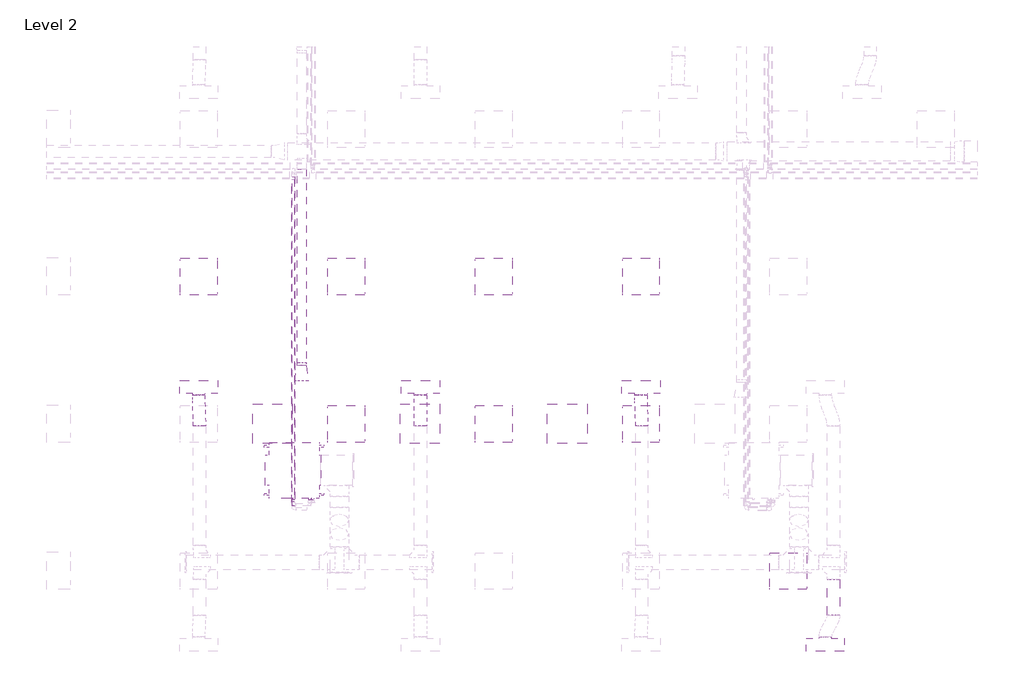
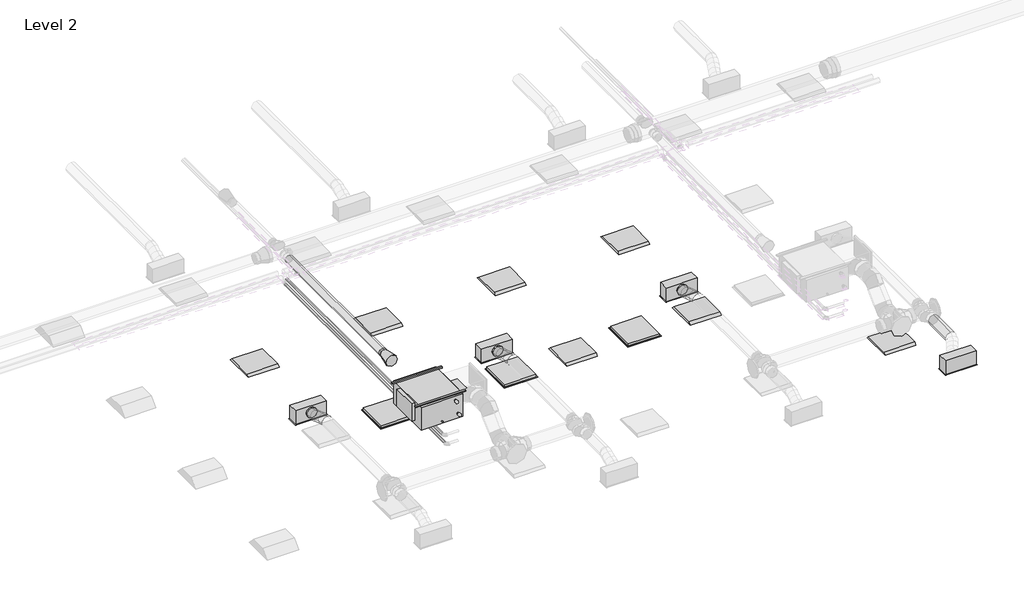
# One storey, part 6 of 26: 8 air terminals, 8 light fixtures, 5 duct segments, 2 pipe segments, 1 proxy.
"""IFC4 building model written with IfcOpenShell, lengths in millimetres."""

from ifc_helpers import new_model, si_unit, point, frame, frame_2d, origin, place, context, project, spatial, circle_curve, ellipse_curve, trimmed, segment, composite_curve, outline, extrude, transform, mapped, element, save
from ifc_brep_helpers import plane_surface, cylinder_surface, advanced_brep
from components import air_terminal_0d1c431e, return_grille_rectangular_hosted_standard_7b12617c, supply_diffuser_with_plenum_linear_slot_hosted_2b730595, fan_coil_unit_ceiling_ducted_chw_376_lps_d7d55c98, light_fixture_1c7c1157, light_fixture_b730b5ca

model = new_model("IFC4")

# Units and contexts
model_context = context("Model", 3, world=origin())
ifc_project = project(units=[si_unit("LENGTHUNIT", "METRE", prefix="MILLI")], contexts=[model_context])

# Site, building, storey
site = spatial("IfcSite", under=ifc_project)
building = spatial("IfcBuilding", under=site)
storey = spatial("IfcBuildingStorey", under=building, Name="Level 2", Elevation=7800.0)

# Air terminals
placement = place(None, origin())
air_terminal_shape = air_terminal_0d1c431e(model_context)
element("IfcAirTerminal", 1, ObjectType="Supply_Bell_Mouth_Grille : Supply_Bell_Mouth_Grille", at=placement, inside=storey, context=model_context, shape_type="MappedRepresentation", body=[
    mapped(air_terminal_shape, transform((18039.0080407, 5510.2561435, 11100.0), x_axis=(0.0, -1.0, 0.0), y_axis=(1.0, 0.0, 0.0), z_axis=(0.0, 0.0, 1.0))),
])
return_grille_rectangular_hosted_standard_shape = return_grille_rectangular_hosted_standard_7b12617c(model_context)
element("IfcAirTerminal", 2, ObjectType="Return Grille - Rectangular - Hosted : Standard", at=placement, inside=storey, context=model_context, shape_type="MappedRepresentation", body=[
    mapped(return_grille_rectangular_hosted_standard_shape, transform((17562.2000027, 4563.2000004, 10600.0), x_axis=(1.0, 0.0, 0.0), y_axis=(0.0, -1.0, 0.0), z_axis=(0.0, 0.0, -1.0))),
])
element("IfcAirTerminal", 3, ObjectType="Return Grille - Rectangular - Hosted : Standard", at=placement, inside=storey, context=model_context, shape_type="MappedRepresentation", body=[
    mapped(return_grille_rectangular_hosted_standard_shape, transform((19962.2000027, 4563.2000004, 10600.0), x_axis=(1.0, 0.0, 0.0), y_axis=(0.0, -1.0, 0.0), z_axis=(0.0, 0.0, -1.0))),
])
element("IfcAirTerminal", 4, ObjectType="Return Grille - Rectangular - Hosted : Standard", at=placement, inside=storey, context=model_context, shape_type="MappedRepresentation", body=[
    mapped(return_grille_rectangular_hosted_standard_shape, transform((22362.2000027, 4563.2000004, 10600.0), x_axis=(0.0, -1.0, 0.0), y_axis=(-1.0, 0.0, 0.0), z_axis=(0.0, 0.0, -1.0))),
])
supply_diffuser_with_plenum_linear_slot_hosted_shape = supply_diffuser_with_plenum_linear_slot_hosted_2b730595(model_context)
element("IfcAirTerminal", 5, ObjectType="Supply Diffuser with Plenum - Linear Slot - Hosted : 24\" x 8\"-200 In Inlet  4-Slot", at=placement, inside=storey, context=model_context, shape_type="MappedRepresentation", body=[
    mapped(supply_diffuser_with_plenum_linear_slot_hosted_shape, transform((26562.2000027, 963.2000004, 10600.0), x_axis=(1.0, 0.0, 0.0), y_axis=(0.0, -1.0, 0.0), z_axis=(0.0, 0.0, -1.0))),
])
element("IfcAirTerminal", 6, ObjectType="Supply Diffuser with Plenum - Linear Slot - Hosted : 24\" x 8\"-200 In Inlet  4-Slot", at=placement, inside=storey, context=model_context, shape_type="MappedRepresentation", body=[
    mapped(supply_diffuser_with_plenum_linear_slot_hosted_shape, transform((16362.2000027, 5163.2000004, 10600.0), x_axis=(-1.0, 0.0, 0.0), y_axis=(0.0, 1.0, 0.0), z_axis=(0.0, 0.0, -1.0))),
])
element("IfcAirTerminal", 7, ObjectType="Supply Diffuser with Plenum - Linear Slot - Hosted : 24\" x 8\"-200 In Inlet  4-Slot", at=placement, inside=storey, context=model_context, shape_type="MappedRepresentation", body=[
    mapped(supply_diffuser_with_plenum_linear_slot_hosted_shape, transform((19973.9000022, 5163.2000004, 10600.0), x_axis=(-1.0, 0.0, 0.0), y_axis=(0.0, 1.0, 0.0), z_axis=(0.0, 0.0, -1.0))),
])
element("IfcAirTerminal", 8, ObjectType="Supply Diffuser with Plenum - Linear Slot - Hosted : 24\" x 8\"-200 In Inlet  4-Slot", at=placement, inside=storey, context=model_context, shape_type="MappedRepresentation", body=[
    mapped(supply_diffuser_with_plenum_linear_slot_hosted_shape, transform((23562.2000027, 5163.2000004, 10600.0), x_axis=(-1.0, 0.0, 0.0), y_axis=(0.0, 1.0, 0.0), z_axis=(0.0, 0.0, -1.0))),
])

# Proxy
fan_coil_unit_ceiling_ducted_chw_376_lps_shape = fan_coil_unit_ceiling_ducted_chw_376_lps_d7d55c98(model_context)
element("IfcBuildingElementProxy", 9, Name="Fan Coil Unit - Ceiling Ducted - CHW : 376 LPS", ObjectType="Fan Coil Unit - Ceiling Ducted - CHW : 376 LPS", at=placement, inside=storey, context=model_context, shape_type="MappedRepresentation", body=[
    mapped(fan_coil_unit_ceiling_ducted_chw_376_lps_shape, transform((18321.2561025, 4263.2000004, 11022.3911538), x_axis=(0.0, -1.0, 0.0), y_axis=(1.0, 0.0, 0.0), z_axis=(0.0, 0.0, 1.0))),
])

# Duct segments
element("IfcDuctSegment", 10, ObjectType="DW144 Segmented Bend / Shoe Branch", at=placement, inside=storey, context=model_context, shape_type="SweptSolid", body=[
    extrude(outline(composite_curve([segment(trimmed(circle_curve(frame_2d((10872.2088531, 26693.9000022)), 100.0), [point((10872.2088531, 26593.9000022))], [point((10772.2088531, 26693.9000022))], False, "CARTESIAN"), True, "CONTINUOUS"), segment(trimmed(circle_curve(frame_2d((10872.2088531, 26693.9000022)), 100.0), [point((10772.2088531, 26693.9000022))], [point((10872.2088531, 26793.9000022))], False, "CARTESIAN"), True, "CONTINUOUS"), segment(trimmed(circle_curve(frame_2d((10872.2088531, 26693.9000022)), 100.0), [point((10872.2088531, 26793.9000022))], [point((10972.2088531, 26693.9000022))], False, "CARTESIAN"), True, "CONTINUOUS"), segment(trimmed(circle_curve(frame_2d((10872.2088531, 26693.9000022)), 100.0), [point((10972.2088531, 26693.9000022))], [point((10872.2088531, 26593.9000022))], False, "CARTESIAN"), True, "CONTINUOUS")], self_intersect=False)), frame((0.0, 1441.5018192, 0.0), z_axis=(0.0, 1.0, 0.0), x_axis=(0.0, 0.0, 1.0)), (0.0, 0.0, 1.0), 590.0),
])
element("IfcDuctSegment", 11, ObjectType="DW144 Segmented Bend / Shoe Branch", at=placement, inside=storey, context=model_context, shape_type="SweptSolid", body=[
    extrude(outline(composite_curve([segment(trimmed(circle_curve(frame_2d((11100.0, 18039.0080407)), 75.0), [point((11100.0, 17964.0080407))], [point((11025.0, 18039.0080407))], False, "CARTESIAN"), True, "CONTINUOUS"), segment(trimmed(circle_curve(frame_2d((11100.0, 18039.0080407)), 75.0), [point((11025.0, 18039.0080407))], [point((11100.0, 18114.0080407))], False, "CARTESIAN"), True, "CONTINUOUS"), segment(trimmed(circle_curve(frame_2d((11100.0, 18039.0080407)), 75.0), [point((11100.0, 18114.0080407))], [point((11175.0, 18039.0080407))], False, "CARTESIAN"), True, "CONTINUOUS"), segment(trimmed(circle_curve(frame_2d((11100.0, 18039.0080407)), 75.0), [point((11175.0, 18039.0080407))], [point((11100.0, 17964.0080407))], False, "CARTESIAN"), True, "CONTINUOUS")], self_intersect=False)), frame((0.0, 5510.2561435, 0.0), z_axis=(0.0, 1.0, 0.0), x_axis=(0.0, 0.0, 1.0)), (0.0, 0.0, 1.0), 3199.1601689),
])
element("IfcDuctSegment", 12, ObjectType="Flex - Round", at=placement, inside=storey, context=model_context, shape_type="AdvancedBrep", body=[
    advanced_brep(
    [(16273.9000022, 4531.5018192, 10872.2088531), (16373.9000022, 4531.5018192, 10772.2088531), (16473.9000022, 4531.5018192, 10872.2088531), (16373.9000022, 4531.5018192, 10972.2088531), (16273.9000022, 4544.9917141, 10872.2088531), (16373.9000022, 4537.7147353, 10772.2088531), (16473.9000022, 4546.5964935, 10872.2088531), (16373.9000022, 4553.8734723, 10972.2088531), (16262.2000027, 5036.2000004, 10754.4), (16362.2000027, 5036.2000004, 10854.4), (16462.2000027, 5036.2000004, 10754.4), (16362.2000027, 5036.2000004, 10654.4), (16272.0967445, 4656.6189403, 10854.0516107), (16372.3222682, 4635.3813467, 10756.322439), (16472.0470101, 4661.3024295, 10853.5508289), (16371.8214864, 4682.5400231, 10951.2800006), (16268.0980601, 4780.789038, 10813.7883253), (16368.5339011, 4753.0205151, 10718.1768669), (16468.0019448, 4786.9127816, 10812.8205279), (16367.5661038, 4814.6813046, 10908.4319862), (16264.0529948, 4906.3993902, 10773.0580242), (16364.2785185, 4885.1617966, 10675.3288525), (16464.0032604, 4911.0828794, 10772.5572424), (16363.7777367, 4932.320473, 10870.2864141), (16262.2000027, 5021.1053262, 10754.4), (16362.2000027, 5013.8283474, 10654.4), (16462.2000027, 5022.7101055, 10754.4), (16362.2000027, 5029.9870843, 10854.4)],
    [
        (0, 1, circle_curve(frame((16373.9000022, 4531.5018192, 10872.2088531), z_axis=(0.0, -1.0, 0.0), x_axis=(-1.0, 0.0, 0.0)), 100.0)),
        (1, 2, circle_curve(frame((16373.9000022, 4531.5018192, 10872.2088531), z_axis=(0.0, -1.0, 0.0), x_axis=(-1.0, 0.0, 0.0)), 100.0)),
        (2, 3, circle_curve(frame((16373.9000022, 4531.5018192, 10872.2088531), z_axis=(0.0, -1.0, 0.0), x_axis=(-1.0, 0.0, 0.0)), 100.0)),
        (3, 0, circle_curve(frame((16373.9000022, 4531.5018192, 10872.2088531), z_axis=(0.0, -1.0, 0.0), x_axis=(-1.0, 0.0, 0.0)), 100.0)),
        (0, 4),
        (4, 5, ellipse_curve(frame((16373.9000022, 4545.7941038, 10872.2088531), z_axis=(0.007997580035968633, -0.9967202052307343, 0.08052869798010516), x_axis=(-0.09850310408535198, -0.08092485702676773, -0.9918408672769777)), 100.3290587, 100.0)),
        (5, 1),
        (5, 6, ellipse_curve(frame((16373.9000022, 4545.7941038, 10872.2088531), z_axis=(0.007997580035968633, -0.9967202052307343, 0.08052869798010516), x_axis=(-0.09850310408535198, -0.08092485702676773, -0.9918408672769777)), 100.3290587, 100.0)),
        (6, 2),
        (6, 7, ellipse_curve(frame((16373.9000022, 4545.7941038, 10872.2088531), z_axis=(0.007997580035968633, -0.9967202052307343, 0.08052869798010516), x_axis=(-0.09850310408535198, -0.08092485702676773, -0.9918408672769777)), 100.3290587, 100.0)),
        (7, 3),
        (7, 4, ellipse_curve(frame((16373.9000022, 4545.7941038, 10872.2088531), z_axis=(0.007997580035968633, -0.9967202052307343, 0.08052869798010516), x_axis=(-0.09850310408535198, -0.08092485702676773, -0.9918408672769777)), 100.3290587, 100.0)),
        (8, 9, circle_curve(frame((16362.2000027, 5036.2000004, 10754.4), z_axis=(0.0, 1.0, 0.0), x_axis=(-1.0, 0.0, 0.0)), 100.0)),
        (9, 10, circle_curve(frame((16362.2000027, 5036.2000004, 10754.4), z_axis=(0.0, 1.0, 0.0), x_axis=(-1.0, 0.0, 0.0)), 100.0)),
        (10, 11, circle_curve(frame((16362.2000027, 5036.2000004, 10754.4), z_axis=(0.0, 1.0, 0.0), x_axis=(-1.0, 0.0, 0.0)), 100.0)),
        (11, 8, circle_curve(frame((16362.2000027, 5036.2000004, 10754.4), z_axis=(0.0, 1.0, 0.0), x_axis=(-1.0, 0.0, 0.0)), 100.0)),
        (4, 12),
        (12, 13, ellipse_curve(frame((16372.0718773, 4658.9606849, 10853.8012198), z_axis=(0.023348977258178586, -0.9716897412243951, 0.23510396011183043), x_axis=(-0.09602941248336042, -0.23626054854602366, -0.9669329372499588)), 100.2932412, 100.0)),
        (13, 5),
        (13, 14, ellipse_curve(frame((16372.0718773, 4658.9606849, 10853.8012198), z_axis=(0.023348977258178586, -0.9716897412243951, 0.23510396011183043), x_axis=(-0.09602941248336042, -0.23626054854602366, -0.9669329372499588)), 100.2932412, 100.0)),
        (14, 6),
        (14, 15, ellipse_curve(frame((16372.0718773, 4658.9606849, 10853.8012198), z_axis=(0.023348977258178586, -0.9716897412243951, 0.23510396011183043), x_axis=(-0.09602941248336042, -0.23626054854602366, -0.9669329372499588)), 100.2932412, 100.0)),
        (15, 7),
        (15, 12, ellipse_curve(frame((16372.0718773, 4658.9606849, 10853.8012198), z_axis=(0.023348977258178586, -0.9716897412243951, 0.23510396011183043), x_axis=(-0.09602941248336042, -0.23626054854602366, -0.9669329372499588)), 100.2932412, 100.0)),
        (12, 16),
        (16, 17, circle_curve(frame((16368.0500024, 4783.8509098, 10813.3044266), z_axis=(0.03061871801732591, -0.9507950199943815, 0.30830394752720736), x_axis=(-0.9995194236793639, -0.030618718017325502, 0.004838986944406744)), 100.0)),
        (17, 13),
        (17, 18, circle_curve(frame((16368.0500024, 4783.8509098, 10813.3044266), z_axis=(0.03061871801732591, -0.9507950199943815, 0.30830394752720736), x_axis=(-0.9995194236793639, -0.030618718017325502, 0.004838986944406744)), 100.0)),
        (18, 14),
        (18, 19, circle_curve(frame((16368.0500024, 4783.8509098, 10813.3044266), z_axis=(0.03061871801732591, -0.9507950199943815, 0.30830394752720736), x_axis=(-0.9995194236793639, -0.030618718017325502, 0.004838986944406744)), 100.0)),
        (19, 15),
        (19, 16, circle_curve(frame((16368.0500024, 4783.8509098, 10813.3044266), z_axis=(0.03061871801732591, -0.9507950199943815, 0.30830394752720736), x_axis=(-0.9995194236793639, -0.030618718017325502, 0.004838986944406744)), 100.0)),
        (16, 20),
        (20, 21, ellipse_curve(frame((16364.0281276, 4908.7411348, 10772.8076333), z_axis=(0.02334897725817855, -0.9716897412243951, 0.23510396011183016), x_axis=(0.09602941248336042, 0.23626054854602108, 0.9669329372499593)), 100.2932412, 100.0)),
        (21, 17),
        (21, 22, ellipse_curve(frame((16364.0281276, 4908.7411348, 10772.8076333), z_axis=(0.02334897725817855, -0.9716897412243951, 0.23510396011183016), x_axis=(0.09602941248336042, 0.23626054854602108, 0.9669329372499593)), 100.2932412, 100.0)),
        (22, 18),
        (22, 23, ellipse_curve(frame((16364.0281276, 4908.7411348, 10772.8076333), z_axis=(0.02334897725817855, -0.9716897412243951, 0.23510396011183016), x_axis=(0.09602941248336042, 0.23626054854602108, 0.9669329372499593)), 100.2932412, 100.0)),
        (23, 19),
        (23, 20, ellipse_curve(frame((16364.0281276, 4908.7411348, 10772.8076333), z_axis=(0.02334897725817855, -0.9716897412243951, 0.23510396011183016), x_axis=(0.09602941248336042, 0.23626054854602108, 0.9669329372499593)), 100.2932412, 100.0)),
        (20, 24),
        (24, 25, ellipse_curve(frame((16362.2000027, 5021.9077159, 10754.4), z_axis=(0.007997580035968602, -0.9967202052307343, 0.08052869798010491), x_axis=(0.09850310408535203, 0.08092485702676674, 0.991840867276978)), 100.3290587, 100.0)),
        (25, 21),
        (25, 26, ellipse_curve(frame((16362.2000027, 5021.9077159, 10754.4), z_axis=(0.007997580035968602, -0.9967202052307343, 0.08052869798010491), x_axis=(0.09850310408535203, 0.08092485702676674, 0.991840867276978)), 100.3290587, 100.0)),
        (26, 22),
        (26, 27, ellipse_curve(frame((16362.2000027, 5021.9077159, 10754.4), z_axis=(0.007997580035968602, -0.9967202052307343, 0.08052869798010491), x_axis=(0.09850310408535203, 0.08092485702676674, 0.991840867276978)), 100.3290587, 100.0)),
        (27, 23),
        (27, 24, ellipse_curve(frame((16362.2000027, 5021.9077159, 10754.4), z_axis=(0.007997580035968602, -0.9967202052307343, 0.08052869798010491), x_axis=(0.09850310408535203, 0.08092485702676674, 0.991840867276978)), 100.3290587, 100.0)),
        (24, 8),
        (11, 25),
        (10, 26),
        (9, 27),
    ],
    [
        plane_surface(frame((16273.9000022, 4531.5018192, 10872.2088531), z_axis=(0.0, -1.0, 0.0), x_axis=(0.0, 0.0, 1.0))),
        cylinder_surface(frame((16373.9000022, 4531.5018192, 10872.2088531), z_axis=(0.0, -1.0, 0.0), x_axis=(-1.0, 0.0, 0.0)), 100.0),
        plane_surface(frame((16262.2000027, 5036.2000004, 10754.4), z_axis=(0.0, 1.0, 0.0), x_axis=(0.0, 0.0, 1.0))),
        cylinder_surface(frame((16373.9000022, 4545.7941038, 10872.2088531), z_axis=(0.015942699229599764, -0.9869023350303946, 0.1605291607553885), x_axis=(-0.9998720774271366, -0.015942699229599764, 0.0012880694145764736)), 100.0),
        cylinder_surface(frame((16372.0718773, 4658.9606849, 10853.8012198), z_axis=(0.030618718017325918, -0.9507950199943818, 0.3083039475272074), x_axis=(-0.9995194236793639, -0.030618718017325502, 0.004838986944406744)), 100.0),
        cylinder_surface(frame((16368.0500024, 4783.8509098, 10813.3044266), z_axis=(0.03061871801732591, -0.9507950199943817, 0.3083039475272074), x_axis=(-0.9995194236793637, -0.030618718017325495, 0.004838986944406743)), 100.0),
        cylinder_surface(frame((16364.0281276, 4908.7411348, 10772.8076333), z_axis=(0.015942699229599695, -0.9869023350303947, 0.16052916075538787), x_axis=(-0.9998720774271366, -0.015942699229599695, 0.0012880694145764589)), 100.0),
        cylinder_surface(frame((16362.2000027, 5021.9077159, 10754.4), z_axis=(0.0, -1.0, 0.0), x_axis=(-1.0, 0.0, 0.0)), 100.0),
    ],
    [
        (0, [[1, 2, 3, 4]]),
        (1, [[-1, 5, 6, 7]]),
        (1, [[-2, -7, 8, 9]]),
        (1, [[-3, -9, 10, 11]]),
        (1, [[-4, -11, 12, -5]]),
        (2, [[13, 14, 15, 16]]),
        (3, [[-6, 17, 18, 19]]),
        (3, [[-8, -19, 20, 21]]),
        (3, [[-10, -21, 22, 23]]),
        (3, [[-12, -23, 24, -17]]),
        (4, [[-18, 25, 26, 27]]),
        (4, [[-20, -27, 28, 29]]),
        (4, [[-22, -29, 30, 31]]),
        (4, [[-24, -31, 32, -25]]),
        (5, [[-26, 33, 34, 35]]),
        (5, [[-28, -35, 36, 37]]),
        (5, [[-30, -37, 38, 39]]),
        (5, [[-32, -39, 40, -33]]),
        (6, [[-34, 41, 42, 43]]),
        (6, [[-36, -43, 44, 45]]),
        (6, [[-38, -45, 46, 47]]),
        (6, [[-40, -47, 48, -41]]),
        (7, [[-42, 49, -16, 50]]),
        (7, [[-44, -50, -15, 51]]),
        (7, [[-46, -51, -14, 52]]),
        (7, [[-48, -52, -13, -49]]),
    ],
),
])
element("IfcDuctSegment", 13, ObjectType="Flex - Round", at=placement, inside=storey, context=model_context, shape_type="AdvancedBrep", body=[
    advanced_brep(
    [(19873.9000022, 4531.5018192, 10872.2088531), (19973.9000022, 4531.5018192, 10772.2088531), (20073.9000022, 4531.5018192, 10872.2088531), (19973.9000022, 4531.5018192, 10972.2088531), (19873.9000022, 4545.7969038, 10872.2088531), (19973.9000022, 4537.7159486, 10772.2088531), (20073.9000022, 4545.7969038, 10872.2088531), (19973.9000022, 4553.877859, 10972.2088531), (19873.9000022, 5036.2000004, 10754.4), (19973.9000022, 5036.2000004, 10854.4), (20073.9000022, 5036.2000004, 10754.4), (19973.9000022, 5036.2000004, 10654.4), (19873.9000022, 4658.9483053, 10853.8012198), (19973.9000022, 4635.3622903, 10756.3236053), (20073.9000022, 4658.9483053, 10853.8012198), (19973.9000022, 4682.5343203, 10951.2788343), (19873.9000022, 4783.8509098, 10813.3044266), (19973.9000022, 4753.0088194, 10718.1794274), (20073.9000022, 4783.8509098, 10813.3044266), (19973.9000022, 4814.6930003, 10908.4294257), (19873.9000022, 4908.7535143, 10772.8076333), (19973.9000022, 4885.1674994, 10675.3300188), (20073.9000022, 4908.7535143, 10772.8076333), (19973.9000022, 4932.3395293, 10870.2852478), (19873.9000022, 5021.9049158, 10754.4), (19973.9000022, 5013.8239606, 10654.4), (20073.9000022, 5021.9049158, 10754.4), (19973.9000022, 5029.985871, 10854.4)],
    [
        (0, 1, circle_curve(frame((19973.9000022, 4531.5018192, 10872.2088531), z_axis=(0.0, -1.0, 0.0), x_axis=(-1.0, 0.0, 0.0)), 100.0)),
        (1, 2, circle_curve(frame((19973.9000022, 4531.5018192, 10872.2088531), z_axis=(0.0, -1.0, 0.0), x_axis=(-1.0, 0.0, 0.0)), 100.0)),
        (2, 3, circle_curve(frame((19973.9000022, 4531.5018192, 10872.2088531), z_axis=(0.0, -1.0, 0.0), x_axis=(-1.0, 0.0, 0.0)), 100.0)),
        (3, 0, circle_curve(frame((19973.9000022, 4531.5018192, 10872.2088531), z_axis=(0.0, -1.0, 0.0), x_axis=(-1.0, 0.0, 0.0)), 100.0)),
        (0, 4),
        (4, 5, ellipse_curve(frame((19973.9000022, 4545.7969038, 10872.2088531), z_axis=(0.0, -0.9967508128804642, 0.08054698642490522), x_axis=(0.0, -0.08054698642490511, -0.9967508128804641)), 100.3259779, 100.0)),
        (5, 1),
        (5, 6, ellipse_curve(frame((19973.9000022, 4545.7969038, 10872.2088531), z_axis=(0.0, -0.9967508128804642, 0.08054698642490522), x_axis=(0.0, -0.08054698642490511, -0.9967508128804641)), 100.3259779, 100.0)),
        (6, 2),
        (6, 7, ellipse_curve(frame((19973.9000022, 4545.7969038, 10872.2088531), z_axis=(0.0, -0.9967508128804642, 0.08054698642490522), x_axis=(0.0, -0.08054698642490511, -0.9967508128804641)), 100.3259779, 100.0)),
        (7, 3),
        (7, 4, ellipse_curve(frame((19973.9000022, 4545.7969038, 10872.2088531), z_axis=(0.0, -0.9967508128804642, 0.08054698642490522), x_axis=(0.0, -0.08054698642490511, -0.9967508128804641)), 100.3259779, 100.0)),
        (8, 9, circle_curve(frame((19973.9000022, 5036.2000004, 10754.4), z_axis=(0.0, 1.0, 0.0), x_axis=(-1.0, 0.0, 0.0)), 100.0)),
        (9, 10, circle_curve(frame((19973.9000022, 5036.2000004, 10754.4), z_axis=(0.0, 1.0, 0.0), x_axis=(-1.0, 0.0, 0.0)), 100.0)),
        (10, 11, circle_curve(frame((19973.9000022, 5036.2000004, 10754.4), z_axis=(0.0, 1.0, 0.0), x_axis=(-1.0, 0.0, 0.0)), 100.0)),
        (11, 8, circle_curve(frame((19973.9000022, 5036.2000004, 10754.4), z_axis=(0.0, 1.0, 0.0), x_axis=(-1.0, 0.0, 0.0)), 100.0)),
        (4, 12),
        (12, 13, ellipse_curve(frame((19973.9000022, 4658.9483053, 10853.8012198), z_axis=(0.0, -0.9719525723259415, 0.23517694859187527), x_axis=(0.0, -0.2351769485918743, -0.9719525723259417)), 100.2905052, 100.0)),
        (13, 5),
        (13, 14, ellipse_curve(frame((19973.9000022, 4658.9483053, 10853.8012198), z_axis=(0.0, -0.9719525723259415, 0.23517694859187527), x_axis=(0.0, -0.2351769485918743, -0.9719525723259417)), 100.2905052, 100.0)),
        (14, 6),
        (14, 15, ellipse_curve(frame((19973.9000022, 4658.9483053, 10853.8012198), z_axis=(0.0, -0.9719525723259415, 0.23517694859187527), x_axis=(0.0, -0.2351769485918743, -0.9719525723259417)), 100.2905052, 100.0)),
        (15, 7),
        (15, 12, ellipse_curve(frame((19973.9000022, 4658.9483053, 10853.8012198), z_axis=(0.0, -0.9719525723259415, 0.23517694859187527), x_axis=(0.0, -0.2351769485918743, -0.9719525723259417)), 100.2905052, 100.0)),
        (12, 16),
        (16, 17, circle_curve(frame((19973.9000022, 4783.8509098, 10813.3044266), z_axis=(0.0, -0.9512499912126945, 0.30842090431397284), x_axis=(-1.0, 0.0, 0.0)), 100.0)),
        (17, 13),
        (17, 18, circle_curve(frame((19973.9000022, 4783.8509098, 10813.3044266), z_axis=(0.0, -0.9512499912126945, 0.30842090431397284), x_axis=(-1.0, 0.0, 0.0)), 100.0)),
        (18, 14),
        (18, 19, circle_curve(frame((19973.9000022, 4783.8509098, 10813.3044266), z_axis=(0.0, -0.9512499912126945, 0.30842090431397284), x_axis=(-1.0, 0.0, 0.0)), 100.0)),
        (19, 15),
        (19, 16, circle_curve(frame((19973.9000022, 4783.8509098, 10813.3044266), z_axis=(0.0, -0.9512499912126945, 0.30842090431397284), x_axis=(-1.0, 0.0, 0.0)), 100.0)),
        (16, 20),
        (20, 21, ellipse_curve(frame((19973.9000022, 4908.7535143, 10772.8076333), z_axis=(0.0, -0.9719525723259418, 0.2351769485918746), x_axis=(0.0, 0.235176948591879, 0.9719525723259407)), 100.2905052, 100.0)),
        (21, 17),
        (21, 22, ellipse_curve(frame((19973.9000022, 4908.7535143, 10772.8076333), z_axis=(0.0, -0.9719525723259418, 0.2351769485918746), x_axis=(0.0, 0.235176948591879, 0.9719525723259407)), 100.2905052, 100.0)),
        (22, 18),
        (22, 23, ellipse_curve(frame((19973.9000022, 4908.7535143, 10772.8076333), z_axis=(0.0, -0.9719525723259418, 0.2351769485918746), x_axis=(0.0, 0.235176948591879, 0.9719525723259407)), 100.2905052, 100.0)),
        (23, 19),
        (23, 20, ellipse_curve(frame((19973.9000022, 4908.7535143, 10772.8076333), z_axis=(0.0, -0.9719525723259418, 0.2351769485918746), x_axis=(0.0, 0.235176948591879, 0.9719525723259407)), 100.2905052, 100.0)),
        (20, 24),
        (24, 25, ellipse_curve(frame((19973.9000022, 5021.9049158, 10754.4), z_axis=(0.0, -0.9967508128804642, 0.0805469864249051), x_axis=(0.0, 0.08054698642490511, 0.9967508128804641)), 100.3259779, 100.0)),
        (25, 21),
        (25, 26, ellipse_curve(frame((19973.9000022, 5021.9049158, 10754.4), z_axis=(0.0, -0.9967508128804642, 0.0805469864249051), x_axis=(0.0, 0.08054698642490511, 0.9967508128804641)), 100.3259779, 100.0)),
        (26, 22),
        (26, 27, ellipse_curve(frame((19973.9000022, 5021.9049158, 10754.4), z_axis=(0.0, -0.9967508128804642, 0.0805469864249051), x_axis=(0.0, 0.08054698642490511, 0.9967508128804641)), 100.3259779, 100.0)),
        (27, 23),
        (27, 24, ellipse_curve(frame((19973.9000022, 5021.9049158, 10754.4), z_axis=(0.0, -0.9967508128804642, 0.0805469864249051), x_axis=(0.0, 0.08054698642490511, 0.9967508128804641)), 100.3259779, 100.0)),
        (24, 8),
        (11, 25),
        (10, 26),
        (9, 27),
    ],
    [
        plane_surface(frame((19873.9000022, 4531.5018192, 10872.2088531), z_axis=(0.0, -1.0, 0.0), x_axis=(0.0, 0.0, 1.0))),
        cylinder_surface(frame((19973.9000022, 4531.5018192, 10872.2088531), z_axis=(0.0, -1.0, 0.0), x_axis=(-1.0, 0.0, 0.0)), 100.0),
        plane_surface(frame((19873.9000022, 5036.2000004, 10754.4), z_axis=(0.0, 1.0, 0.0), x_axis=(0.0, 0.0, 1.0))),
        cylinder_surface(frame((19973.9000022, 4545.7969038, 10872.2088531), z_axis=(0.0, -0.9870243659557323, 0.16057054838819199), x_axis=(-1.0, 0.0, 0.0)), 100.0),
        cylinder_surface(frame((19973.9000022, 4658.9483053, 10853.8012198), z_axis=(0.0, -0.9512499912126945, 0.30842090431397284), x_axis=(-1.0, 0.0, 0.0)), 100.0),
        cylinder_surface(frame((19973.9000022, 4783.8509098, 10813.3044266), z_axis=(0.0, -0.9512499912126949, 0.30842090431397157), x_axis=(-1.0, 0.0, 0.0)), 100.0),
        cylinder_surface(frame((19973.9000022, 4908.7535143, 10772.8076333), z_axis=(0.0, -0.9870243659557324, 0.16057054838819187), x_axis=(-1.0, 0.0, 0.0)), 100.0),
        cylinder_surface(frame((19973.9000022, 5021.9049158, 10754.4), z_axis=(0.0, -1.0, 0.0), x_axis=(-1.0, 0.0, 0.0)), 100.0),
    ],
    [
        (0, [[1, 2, 3, 4]]),
        (1, [[-1, 5, 6, 7]]),
        (1, [[-2, -7, 8, 9]]),
        (1, [[-3, -9, 10, 11]]),
        (1, [[-4, -11, 12, -5]]),
        (2, [[13, 14, 15, 16]]),
        (3, [[-6, 17, 18, 19]]),
        (3, [[-8, -19, 20, 21]]),
        (3, [[-10, -21, 22, 23]]),
        (3, [[-12, -23, 24, -17]]),
        (4, [[-18, 25, 26, 27]]),
        (4, [[-20, -27, 28, 29]]),
        (4, [[-22, -29, 30, 31]]),
        (4, [[-24, -31, 32, -25]]),
        (5, [[-26, 33, 34, 35]]),
        (5, [[-28, -35, 36, 37]]),
        (5, [[-30, -37, 38, 39]]),
        (5, [[-32, -39, 40, -33]]),
        (6, [[-34, 41, 42, 43]]),
        (6, [[-36, -43, 44, 45]]),
        (6, [[-38, -45, 46, 47]]),
        (6, [[-40, -47, 48, -41]]),
        (7, [[-42, 49, -16, 50]]),
        (7, [[-44, -50, -15, 51]]),
        (7, [[-46, -51, -14, 52]]),
        (7, [[-48, -52, -13, -49]]),
    ],
),
])
element("IfcDuctSegment", 14, ObjectType="Flex - Round", at=placement, inside=storey, context=model_context, shape_type="AdvancedBrep", body=[
    advanced_brep(
    [(23473.9000022, 4531.5018192, 10872.2088531), (23573.9000022, 4531.5018192, 10772.2088531), (23673.9000022, 4531.5018192, 10872.2088531), (23573.9000022, 4531.5018192, 10972.2088531), (23473.9000022, 4544.9917141, 10872.2088531), (23573.9000022, 4537.7147353, 10772.2088531), (23673.9000022, 4546.5964935, 10872.2088531), (23573.9000022, 4553.8734723, 10972.2088531), (23462.2000027, 5036.2000004, 10754.4), (23562.2000027, 5036.2000004, 10854.4), (23662.2000027, 5036.2000004, 10754.4), (23562.2000027, 5036.2000004, 10654.4), (23472.0967445, 4656.6189403, 10854.0516107), (23572.3222682, 4635.3813467, 10756.322439), (23672.0470101, 4661.3024295, 10853.5508289), (23571.8214864, 4682.5400231, 10951.2800006), (23468.0980601, 4780.789038, 10813.7883253), (23568.5339011, 4753.0205151, 10718.1768669), (23668.0019448, 4786.9127816, 10812.8205279), (23567.5661038, 4814.6813046, 10908.4319862), (23464.0529948, 4906.3993902, 10773.0580242), (23564.2785185, 4885.1617966, 10675.3288525), (23664.0032604, 4911.0828794, 10772.5572424), (23563.7777367, 4932.320473, 10870.2864141), (23462.2000027, 5021.1053262, 10754.4), (23562.2000027, 5013.8283474, 10654.4), (23662.2000027, 5022.7101055, 10754.4), (23562.2000027, 5029.9870843, 10854.4)],
    [
        (0, 1, circle_curve(frame((23573.9000022, 4531.5018192, 10872.2088531), z_axis=(0.0, -1.0, 0.0), x_axis=(-1.0, 0.0, 0.0)), 100.0)),
        (1, 2, circle_curve(frame((23573.9000022, 4531.5018192, 10872.2088531), z_axis=(0.0, -1.0, 0.0), x_axis=(-1.0, 0.0, 0.0)), 100.0)),
        (2, 3, circle_curve(frame((23573.9000022, 4531.5018192, 10872.2088531), z_axis=(0.0, -1.0, 0.0), x_axis=(-1.0, 0.0, 0.0)), 100.0)),
        (3, 0, circle_curve(frame((23573.9000022, 4531.5018192, 10872.2088531), z_axis=(0.0, -1.0, 0.0), x_axis=(-1.0, 0.0, 0.0)), 100.0)),
        (0, 4),
        (4, 5, ellipse_curve(frame((23573.9000022, 4545.7941038, 10872.2088531), z_axis=(0.007997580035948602, -0.9967202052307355, 0.08052869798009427), x_axis=(-0.09850310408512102, -0.08092485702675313, -0.991840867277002)), 100.3290587, 100.0)),
        (5, 1),
        (5, 6, ellipse_curve(frame((23573.9000022, 4545.7941038, 10872.2088531), z_axis=(0.007997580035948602, -0.9967202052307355, 0.08052869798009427), x_axis=(-0.09850310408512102, -0.08092485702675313, -0.991840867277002)), 100.3290587, 100.0)),
        (6, 2),
        (6, 7, ellipse_curve(frame((23573.9000022, 4545.7941038, 10872.2088531), z_axis=(0.007997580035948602, -0.9967202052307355, 0.08052869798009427), x_axis=(-0.09850310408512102, -0.08092485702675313, -0.991840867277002)), 100.3290587, 100.0)),
        (7, 3),
        (7, 4, ellipse_curve(frame((23573.9000022, 4545.7941038, 10872.2088531), z_axis=(0.007997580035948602, -0.9967202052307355, 0.08052869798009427), x_axis=(-0.09850310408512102, -0.08092485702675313, -0.991840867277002)), 100.3290587, 100.0)),
        (8, 9, circle_curve(frame((23562.2000027, 5036.2000004, 10754.4), z_axis=(0.0, 1.0, 0.0), x_axis=(-1.0, 0.0, 0.0)), 100.0)),
        (9, 10, circle_curve(frame((23562.2000027, 5036.2000004, 10754.4), z_axis=(0.0, 1.0, 0.0), x_axis=(-1.0, 0.0, 0.0)), 100.0)),
        (10, 11, circle_curve(frame((23562.2000027, 5036.2000004, 10754.4), z_axis=(0.0, 1.0, 0.0), x_axis=(-1.0, 0.0, 0.0)), 100.0)),
        (11, 8, circle_curve(frame((23562.2000027, 5036.2000004, 10754.4), z_axis=(0.0, 1.0, 0.0), x_axis=(-1.0, 0.0, 0.0)), 100.0)),
        (4, 12),
        (12, 13, ellipse_curve(frame((23572.0718773, 4658.9606849, 10853.8012198), z_axis=(0.023348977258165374, -0.9716897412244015, 0.23510396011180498), x_axis=(-0.09602941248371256, -0.2362605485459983, -0.96693293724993)), 100.2932412, 100.0)),
        (13, 5),
        (13, 14, ellipse_curve(frame((23572.0718773, 4658.9606849, 10853.8012198), z_axis=(0.023348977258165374, -0.9716897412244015, 0.23510396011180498), x_axis=(-0.09602941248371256, -0.2362605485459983, -0.96693293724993)), 100.2932412, 100.0)),
        (14, 6),
        (14, 15, ellipse_curve(frame((23572.0718773, 4658.9606849, 10853.8012198), z_axis=(0.023348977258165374, -0.9716897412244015, 0.23510396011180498), x_axis=(-0.09602941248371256, -0.2362605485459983, -0.96693293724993)), 100.2932412, 100.0)),
        (15, 7),
        (15, 12, ellipse_curve(frame((23572.0718773, 4658.9606849, 10853.8012198), z_axis=(0.023348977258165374, -0.9716897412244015, 0.23510396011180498), x_axis=(-0.09602941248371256, -0.2362605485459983, -0.96693293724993)), 100.2932412, 100.0)),
        (12, 16),
        (16, 17, circle_curve(frame((23568.0500024, 4783.8509098, 10813.3044266), z_axis=(0.030618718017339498, -0.9507950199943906, 0.3083039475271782), x_axis=(-0.9995194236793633, -0.030618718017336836, 0.004838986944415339)), 100.0)),
        (17, 13),
        (17, 18, circle_curve(frame((23568.0500024, 4783.8509098, 10813.3044266), z_axis=(0.030618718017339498, -0.9507950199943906, 0.3083039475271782), x_axis=(-0.9995194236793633, -0.030618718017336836, 0.004838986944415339)), 100.0)),
        (18, 14),
        (18, 19, circle_curve(frame((23568.0500024, 4783.8509098, 10813.3044266), z_axis=(0.030618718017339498, -0.9507950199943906, 0.3083039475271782), x_axis=(-0.9995194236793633, -0.030618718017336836, 0.004838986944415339)), 100.0)),
        (19, 15),
        (19, 16, circle_curve(frame((23568.0500024, 4783.8509098, 10813.3044266), z_axis=(0.030618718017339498, -0.9507950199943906, 0.3083039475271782), x_axis=(-0.9995194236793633, -0.030618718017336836, 0.004838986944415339)), 100.0)),
        (16, 20),
        (20, 21, ellipse_curve(frame((23564.0281276, 4908.7411348, 10772.8076333), z_axis=(0.023348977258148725, -0.9716897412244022, 0.23510396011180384), x_axis=(0.09602941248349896, 0.23626054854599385, 0.9669329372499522)), 100.2932412, 100.0)),
        (21, 17),
        (21, 22, ellipse_curve(frame((23564.0281276, 4908.7411348, 10772.8076333), z_axis=(0.023348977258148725, -0.9716897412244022, 0.23510396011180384), x_axis=(0.09602941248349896, 0.23626054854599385, 0.9669329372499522)), 100.2932412, 100.0)),
        (22, 18),
        (22, 23, ellipse_curve(frame((23564.0281276, 4908.7411348, 10772.8076333), z_axis=(0.023348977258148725, -0.9716897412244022, 0.23510396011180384), x_axis=(0.09602941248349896, 0.23626054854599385, 0.9669329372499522)), 100.2932412, 100.0)),
        (23, 19),
        (23, 20, ellipse_curve(frame((23564.0281276, 4908.7411348, 10772.8076333), z_axis=(0.023348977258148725, -0.9716897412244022, 0.23510396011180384), x_axis=(0.09602941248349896, 0.23626054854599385, 0.9669329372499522)), 100.2932412, 100.0)),
        (20, 24),
        (24, 25, ellipse_curve(frame((23562.2000027, 5021.9077159, 10754.4), z_axis=(0.007997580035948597, -0.9967202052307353, 0.08052869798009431), x_axis=(0.09850310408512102, 0.08092485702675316, 0.991840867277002)), 100.3290587, 100.0)),
        (25, 21),
        (25, 26, ellipse_curve(frame((23562.2000027, 5021.9077159, 10754.4), z_axis=(0.007997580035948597, -0.9967202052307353, 0.08052869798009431), x_axis=(0.09850310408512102, 0.08092485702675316, 0.991840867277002)), 100.3290587, 100.0)),
        (26, 22),
        (26, 27, ellipse_curve(frame((23562.2000027, 5021.9077159, 10754.4), z_axis=(0.007997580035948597, -0.9967202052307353, 0.08052869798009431), x_axis=(0.09850310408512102, 0.08092485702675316, 0.991840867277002)), 100.3290587, 100.0)),
        (27, 23),
        (27, 24, ellipse_curve(frame((23562.2000027, 5021.9077159, 10754.4), z_axis=(0.007997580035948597, -0.9967202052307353, 0.08052869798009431), x_axis=(0.09850310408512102, 0.08092485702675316, 0.991840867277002)), 100.3290587, 100.0)),
        (24, 8),
        (11, 25),
        (10, 26),
        (9, 27),
    ],
    [
        plane_surface(frame((23473.9000022, 4531.5018192, 10872.2088531), z_axis=(0.0, -1.0, 0.0), x_axis=(0.0, 0.0, 1.0))),
        cylinder_surface(frame((23573.9000022, 4531.5018192, 10872.2088531), z_axis=(0.0, -1.0, 0.0), x_axis=(-1.0, 0.0, 0.0)), 100.0),
        plane_surface(frame((23462.2000027, 5036.2000004, 10754.4), z_axis=(0.0, 1.0, 0.0), x_axis=(0.0, 0.0, 1.0))),
        cylinder_surface(frame((23573.9000022, 4545.7941038, 10872.2088531), z_axis=(0.015942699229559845, -0.9869023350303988, 0.16052916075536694), x_axis=(-0.9998720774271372, -0.015942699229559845, 0.0012880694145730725)), 100.0),
        cylinder_surface(frame((23572.0718773, 4658.9606849, 10853.8012198), z_axis=(0.030618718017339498, -0.9507950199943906, 0.3083039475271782), x_axis=(-0.9995194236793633, -0.030618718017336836, 0.004838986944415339)), 100.0),
        cylinder_surface(frame((23568.0500024, 4783.8509098, 10813.3044266), z_axis=(0.03061871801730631, -0.9507950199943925, 0.3083039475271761), x_axis=(-0.9995194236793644, -0.030618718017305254, 0.004838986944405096)), 100.0),
        cylinder_surface(frame((23564.0281276, 4908.7411348, 10772.8076333), z_axis=(0.015942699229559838, -0.9869023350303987, 0.16052916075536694), x_axis=(-0.9998720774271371, -0.015942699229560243, 0.001288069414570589)), 100.0),
        cylinder_surface(frame((23562.2000027, 5021.9077159, 10754.4), z_axis=(0.0, -1.0, 0.0), x_axis=(-1.0, 0.0, 0.0)), 100.0),
    ],
    [
        (0, [[1, 2, 3, 4]]),
        (1, [[-1, 5, 6, 7]]),
        (1, [[-2, -7, 8, 9]]),
        (1, [[-3, -9, 10, 11]]),
        (1, [[-4, -11, 12, -5]]),
        (2, [[13, 14, 15, 16]]),
        (3, [[-6, 17, 18, 19]]),
        (3, [[-8, -19, 20, 21]]),
        (3, [[-10, -21, 22, 23]]),
        (3, [[-12, -23, 24, -17]]),
        (4, [[-18, 25, 26, 27]]),
        (4, [[-20, -27, 28, 29]]),
        (4, [[-22, -29, 30, 31]]),
        (4, [[-24, -31, 32, -25]]),
        (5, [[-26, 33, 34, 35]]),
        (5, [[-28, -35, 36, 37]]),
        (5, [[-30, -37, 38, 39]]),
        (5, [[-32, -39, 40, -33]]),
        (6, [[-34, 41, 42, 43]]),
        (6, [[-36, -43, 44, 45]]),
        (6, [[-38, -45, 46, 47]]),
        (6, [[-40, -47, 48, -41]]),
        (7, [[-42, 49, -16, 50]]),
        (7, [[-44, -50, -15, 51]]),
        (7, [[-46, -51, -14, 52]]),
        (7, [[-48, -52, -13, -49]]),
    ],
),
])

# Light fixtures
light_fixture_shape = light_fixture_1c7c1157(model_context)
element("IfcLightFixture", 15, ObjectType="ELEKTRA Plain Recessed Lighting Fixture : 24\" x 24\" - 230", at=placement, inside=storey, context=model_context, shape_type="MappedRepresentation", body=[
    mapped(light_fixture_shape, transform((25662.2000027, 1863.2000004, 10600.0), x_axis=(1.0, 0.0, 0.0), y_axis=(0.0, -1.0, 0.0), z_axis=(0.0, 0.0, -1.0))),
])
element("IfcLightFixture", 16, ObjectType="ELEKTRA Plain Recessed Lighting Fixture : 24\" x 24\" - 230", at=placement, inside=storey, context=model_context, shape_type="MappedRepresentation", body=[
    mapped(light_fixture_shape, transform((23262.2000027, 6663.2000004, 10600.0), x_axis=(1.0, 0.0, 0.0), y_axis=(0.0, -1.0, 0.0), z_axis=(0.0, 0.0, -1.0))),
])
element("IfcLightFixture", 17, ObjectType="ELEKTRA Plain Recessed Lighting Fixture : 24\" x 24\" - 230", at=placement, inside=storey, context=model_context, shape_type="MappedRepresentation", body=[
    mapped(light_fixture_shape, transform((20862.2000027, 4263.2000004, 10600.0), x_axis=(1.0, 0.0, 0.0), y_axis=(0.0, -1.0, 0.0), z_axis=(0.0, 0.0, -1.0))),
])
element("IfcLightFixture", 18, ObjectType="ELEKTRA Plain Recessed Lighting Fixture : 24\" x 24\" - 230", at=placement, inside=storey, context=model_context, shape_type="MappedRepresentation", body=[
    mapped(light_fixture_shape, transform((20862.2000027, 6663.2000004, 10600.0), x_axis=(1.0, 0.0, 0.0), y_axis=(0.0, -1.0, 0.0), z_axis=(0.0, 0.0, -1.0))),
])
element("IfcLightFixture", 19, ObjectType="ELEKTRA Plain Recessed Lighting Fixture : 24\" x 24\" - 230", at=placement, inside=storey, context=model_context, shape_type="MappedRepresentation", body=[
    mapped(light_fixture_shape, transform((18462.2000027, 6663.2000004, 10600.0), x_axis=(1.0, 0.0, 0.0), y_axis=(0.0, -1.0, 0.0), z_axis=(0.0, 0.0, -1.0))),
])
element("IfcLightFixture", 20, ObjectType="ELEKTRA Plain Recessed Lighting Fixture : 24\" x 24\" - 230", at=placement, inside=storey, context=model_context, shape_type="MappedRepresentation", body=[
    mapped(light_fixture_shape, transform((16062.2000027, 6663.2000004, 10600.0), x_axis=(1.0, 0.0, 0.0), y_axis=(0.0, -1.0, 0.0), z_axis=(0.0, 0.0, -1.0))),
])
light_fixture_2_shape = light_fixture_b730b5ca(model_context)
element("IfcLightFixture", 21, ObjectType="ELEKTRA EM Recessed Lighting Fixture : 24\" x 24\" - 230", at=placement, inside=storey, context=model_context, shape_type="MappedRepresentation", body=[
    mapped(light_fixture_2_shape, transform((23262.2000027, 4263.2000004, 10600.0), x_axis=(1.0, 0.0, 0.0), y_axis=(0.0, -1.0, 0.0), z_axis=(0.0, 0.0, -1.0))),
])
element("IfcLightFixture", 22, ObjectType="ELEKTRA EM Recessed Lighting Fixture : 24\" x 24\" - 230", at=placement, inside=storey, context=model_context, shape_type="MappedRepresentation", body=[
    mapped(light_fixture_2_shape, transform((18462.2000027, 4263.2000004, 10600.0), x_axis=(1.0, 0.0, 0.0), y_axis=(0.0, -1.0, 0.0), z_axis=(0.0, 0.0, -1.0))),
])

# Pipe segments
element("IfcPipeSegment", 23, ObjectType="Carbon Steel - Threaded", at=placement, inside=storey, context=model_context, shape_type="SweptSolid", body=[
    extrude(outline(composite_curve([segment(trimmed(circle_curve(frame_2d((10834.6193977, 17898.7529576)), 21.45), [point((10834.6193977, 17920.2029576))], [point((10856.0693977, 17898.7529576))], False, "CARTESIAN"), True, "CONTINUOUS"), segment(trimmed(circle_curve(frame_2d((10834.6193977, 17898.7529576)), 21.45), [point((10856.0693977, 17898.7529576))], [point((10834.6193977, 17877.3029576))], False, "CARTESIAN"), True, "CONTINUOUS"), segment(trimmed(circle_curve(frame_2d((10834.6193977, 17898.7529576)), 21.45), [point((10834.6193977, 17877.3029576))], [point((10813.1693977, 17898.7529576))], False, "CARTESIAN"), True, "CONTINUOUS"), segment(trimmed(circle_curve(frame_2d((10834.6193977, 17898.7529576)), 21.45), [point((10813.1693977, 17898.7529576))], [point((10834.6193977, 17920.2029576))], False, "CARTESIAN"), True, "CONTINUOUS")], self_intersect=False)), frame((0.0, 3291.7427522, 0.0), z_axis=(0.0, 1.0, 0.0), x_axis=(0.0, 0.0, 1.0)), (0.0, 0.0, 1.0), 5251.9190391),
])
element("IfcPipeSegment", 24, ObjectType="Carbon Steel - Threaded", at=placement, inside=storey, context=model_context, shape_type="SweptSolid", body=[
    extrude(outline(composite_curve([segment(trimmed(circle_curve(frame_2d((10693.9343179, 17903.0774681)), 21.45), [point((10693.9343179, 17881.6274681))], [point((10672.4843179, 17903.0774681))], False, "CARTESIAN"), True, "CONTINUOUS"), segment(trimmed(circle_curve(frame_2d((10693.9343179, 17903.0774681)), 21.45), [point((10672.4843179, 17903.0774681))], [point((10693.9343179, 17924.5274681))], False, "CARTESIAN"), True, "CONTINUOUS"), segment(trimmed(circle_curve(frame_2d((10693.9343179, 17903.0774681)), 21.45), [point((10693.9343179, 17924.5274681))], [point((10715.3843179, 17903.0774681))], False, "CARTESIAN"), True, "CONTINUOUS"), segment(trimmed(circle_curve(frame_2d((10693.9343179, 17903.0774681)), 21.45), [point((10715.3843179, 17903.0774681))], [point((10693.9343179, 17881.6274681))], False, "CARTESIAN"), True, "CONTINUOUS")], self_intersect=False)), frame((0.0, 3222.232951, 0.0), z_axis=(0.0, 1.0, 0.0), x_axis=(0.0, 0.0, 1.0)), (0.0, 0.0, 1.0), 5368.3868039),
])

save(model, "model.ifc")
